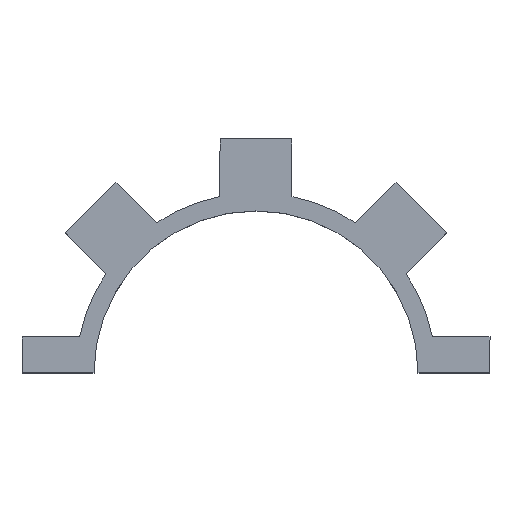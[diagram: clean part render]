
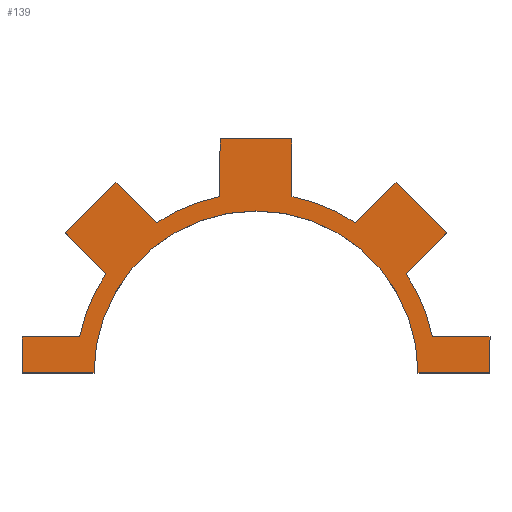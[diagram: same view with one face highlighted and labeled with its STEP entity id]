
A CAD part, top view. The second image highlights one B-rep face of the part: STEP entity #139.
In plain terms, the highlighted planar face has unit normal (0, 0, 1).
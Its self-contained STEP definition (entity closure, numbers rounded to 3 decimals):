
#56=PLANE('',#750);
#139=ADVANCED_FACE('',(#194),#56,.F.);
#194=FACE_OUTER_BOUND('',#213,.T.);
#213=EDGE_LOOP('',(#338,#339,#340,#341,#342,#343,#344,#345,#346,#347,#348,
#349,#350,#351,#352,#353,#354,#355,#356,#357));
#275=CIRCLE('',#732,50.);
#277=CIRCLE('',#735,50.);
#279=CIRCLE('',#738,50.);
#281=CIRCLE('',#741,50.);
#284=CIRCLE('',#746,45.);
#338=ORIENTED_EDGE('',*,*,#560,.T.);
#339=ORIENTED_EDGE('',*,*,#574,.T.);
#340=ORIENTED_EDGE('',*,*,#575,.T.);
#341=ORIENTED_EDGE('',*,*,#576,.T.);
#342=ORIENTED_EDGE('',*,*,#549,.T.);
#343=ORIENTED_EDGE('',*,*,#577,.T.);
#344=ORIENTED_EDGE('',*,*,#578,.T.);
#345=ORIENTED_EDGE('',*,*,#579,.T.);
#346=ORIENTED_EDGE('',*,*,#556,.T.);
#347=ORIENTED_EDGE('',*,*,#580,.T.);
#348=ORIENTED_EDGE('',*,*,#581,.T.);
#349=ORIENTED_EDGE('',*,*,#582,.T.);
#350=ORIENTED_EDGE('',*,*,#553,.T.);
#351=ORIENTED_EDGE('',*,*,#583,.F.);
#352=ORIENTED_EDGE('',*,*,#584,.F.);
#353=ORIENTED_EDGE('',*,*,#565,.T.);
#354=ORIENTED_EDGE('',*,*,#569,.T.);
#355=ORIENTED_EDGE('',*,*,#573,.T.);
#356=ORIENTED_EDGE('',*,*,#585,.T.);
#357=ORIENTED_EDGE('',*,*,#586,.T.);
#477=VERTEX_POINT('',#1020);
#479=VERTEX_POINT('',#1024);
#481=VERTEX_POINT('',#1029);
#483=VERTEX_POINT('',#1033);
#486=VERTEX_POINT('',#1040);
#487=VERTEX_POINT('',#1042);
#490=VERTEX_POINT('',#1049);
#491=VERTEX_POINT('',#1051);
#495=VERTEX_POINT('',#1060);
#496=VERTEX_POINT('',#1062);
#498=VERTEX_POINT('',#1068);
#501=VERTEX_POINT('',#1076);
#502=VERTEX_POINT('',#1080);
#503=VERTEX_POINT('',#1082);
#504=VERTEX_POINT('',#1085);
#505=VERTEX_POINT('',#1087);
#506=VERTEX_POINT('',#1090);
#507=VERTEX_POINT('',#1092);
#508=VERTEX_POINT('',#1095);
#509=VERTEX_POINT('',#1098);
#549=EDGE_CURVE('',#477,#479,#275,.T.);
#553=EDGE_CURVE('',#481,#483,#277,.T.);
#556=EDGE_CURVE('',#487,#486,#279,.T.);
#560=EDGE_CURVE('',#491,#490,#281,.T.);
#565=EDGE_CURVE('',#496,#495,#640,.T.);
#569=EDGE_CURVE('',#495,#498,#284,.T.);
#573=EDGE_CURVE('',#498,#501,#645,.T.);
#574=EDGE_CURVE('',#490,#502,#646,.T.);
#575=EDGE_CURVE('',#502,#503,#647,.T.);
#576=EDGE_CURVE('',#503,#477,#648,.T.);
#577=EDGE_CURVE('',#479,#504,#649,.T.);
#578=EDGE_CURVE('',#504,#505,#650,.T.);
#579=EDGE_CURVE('',#505,#487,#651,.T.);
#580=EDGE_CURVE('',#486,#506,#652,.T.);
#581=EDGE_CURVE('',#506,#507,#653,.T.);
#582=EDGE_CURVE('',#507,#481,#654,.T.);
#583=EDGE_CURVE('',#508,#483,#655,.T.);
#584=EDGE_CURVE('',#496,#508,#656,.T.);
#585=EDGE_CURVE('',#501,#509,#657,.T.);
#586=EDGE_CURVE('',#509,#491,#658,.T.);
#640=LINE('',#1061,#690);
#645=LINE('',#1077,#695);
#646=LINE('',#1079,#696);
#647=LINE('',#1081,#697);
#648=LINE('',#1083,#698);
#649=LINE('',#1084,#699);
#650=LINE('',#1086,#700);
#651=LINE('',#1088,#701);
#652=LINE('',#1089,#702);
#653=LINE('',#1091,#703);
#654=LINE('',#1093,#704);
#655=LINE('',#1094,#705);
#656=LINE('',#1096,#706);
#657=LINE('',#1097,#707);
#658=LINE('',#1099,#708);
#690=VECTOR('',#847,1.);
#695=VECTOR('',#862,1.);
#696=VECTOR('',#865,1.);
#697=VECTOR('',#866,1.);
#698=VECTOR('',#867,1.);
#699=VECTOR('',#868,1.);
#700=VECTOR('',#869,1.);
#701=VECTOR('',#870,1.);
#702=VECTOR('',#871,1.);
#703=VECTOR('',#872,1.);
#704=VECTOR('',#873,1.);
#705=VECTOR('',#874,1.);
#706=VECTOR('',#875,1.);
#707=VECTOR('',#876,1.);
#708=VECTOR('',#877,1.);
#732=AXIS2_PLACEMENT_3D('',#1025,#815,#816);
#735=AXIS2_PLACEMENT_3D('',#1034,#823,#824);
#738=AXIS2_PLACEMENT_3D('',#1041,#830,#831);
#741=AXIS2_PLACEMENT_3D('',#1050,#838,#839);
#746=AXIS2_PLACEMENT_3D('',#1069,#854,#855);
#750=AXIS2_PLACEMENT_3D('',#1100,#878,#879);
#815=DIRECTION('',(0.,0.,1.));
#816=DIRECTION('',(1.,0.,0.));
#823=DIRECTION('',(0.,0.,1.));
#824=DIRECTION('',(1.,0.,0.));
#830=DIRECTION('',(0.,0.,1.));
#831=DIRECTION('',(1.,0.,0.));
#838=DIRECTION('',(0.,0.,1.));
#839=DIRECTION('',(1.,0.,0.));
#847=DIRECTION('',(1.,0.,0.));
#854=DIRECTION('',(0.,0.,-1.));
#855=DIRECTION('',(1.,0.,0.));
#862=DIRECTION('',(1.,0.,0.));
#865=DIRECTION('',(0.707,0.707,0.));
#866=DIRECTION('',(-0.707,0.707,0.));
#867=DIRECTION('',(-0.707,-0.707,0.));
#868=DIRECTION('',(0.,1.,0.));
#869=DIRECTION('',(-1.,0.,0.));
#870=DIRECTION('',(0.,-1.,0.));
#871=DIRECTION('',(-0.707,0.707,0.));
#872=DIRECTION('',(-0.707,-0.707,0.));
#873=DIRECTION('',(0.707,-0.707,0.));
#874=DIRECTION('',(1.,0.,0.));
#875=DIRECTION('',(0.,1.,0.));
#876=DIRECTION('',(0.,1.,0.));
#877=DIRECTION('',(-1.,0.,0.));
#878=DIRECTION('',(0.,0.,-1.));
#879=DIRECTION('',(-1.,0.,0.));
#1020=CARTESIAN_POINT('',(27.57,41.712,15.));
#1024=CARTESIAN_POINT('',(10.,48.99,15.));
#1025=CARTESIAN_POINT('',(0.,0.,15.));
#1029=CARTESIAN_POINT('',(-41.712,27.57,15.));
#1033=CARTESIAN_POINT('',(-48.99,10.,15.));
#1034=CARTESIAN_POINT('',(0.,0.,15.));
#1040=CARTESIAN_POINT('',(-27.57,41.712,15.));
#1041=CARTESIAN_POINT('',(0.,0.,15.));
#1042=CARTESIAN_POINT('',(-10.,48.99,15.));
#1049=CARTESIAN_POINT('',(41.712,27.57,15.));
#1050=CARTESIAN_POINT('',(0.,0.,15.));
#1051=CARTESIAN_POINT('',(48.99,10.,15.));
#1060=CARTESIAN_POINT('',(-45.,0.,15.));
#1061=CARTESIAN_POINT('',(-50.,0.,15.));
#1062=CARTESIAN_POINT('',(-65.,0.,15.));
#1068=CARTESIAN_POINT('',(45.,0.,15.));
#1069=CARTESIAN_POINT('',(0.,0.,15.));
#1076=CARTESIAN_POINT('',(65.,0.,15.));
#1077=CARTESIAN_POINT('',(45.,0.,15.));
#1079=CARTESIAN_POINT('',(41.712,27.57,15.));
#1080=CARTESIAN_POINT('',(53.033,38.891,15.));
#1081=CARTESIAN_POINT('',(45.962,45.962,15.));
#1082=CARTESIAN_POINT('',(38.891,53.033,15.));
#1083=CARTESIAN_POINT('',(38.891,53.033,15.));
#1084=CARTESIAN_POINT('',(10.,48.99,15.));
#1085=CARTESIAN_POINT('',(10.,65.,15.));
#1086=CARTESIAN_POINT('',(0.,65.,15.));
#1087=CARTESIAN_POINT('',(-10.,65.,15.));
#1088=CARTESIAN_POINT('',(-10.,65.,15.));
#1089=CARTESIAN_POINT('',(-27.57,41.712,15.));
#1090=CARTESIAN_POINT('',(-38.891,53.033,15.));
#1091=CARTESIAN_POINT('',(-45.962,45.962,15.));
#1092=CARTESIAN_POINT('',(-53.033,38.891,15.));
#1093=CARTESIAN_POINT('',(-53.033,38.891,15.));
#1094=CARTESIAN_POINT('',(-65.,10.,15.));
#1095=CARTESIAN_POINT('',(-65.,10.,15.));
#1096=CARTESIAN_POINT('',(-65.,0.,15.));
#1097=CARTESIAN_POINT('',(65.,0.,15.));
#1098=CARTESIAN_POINT('',(65.,10.,15.));
#1099=CARTESIAN_POINT('',(65.,10.,15.));
#1100=CARTESIAN_POINT('',(0.,0.,15.));
